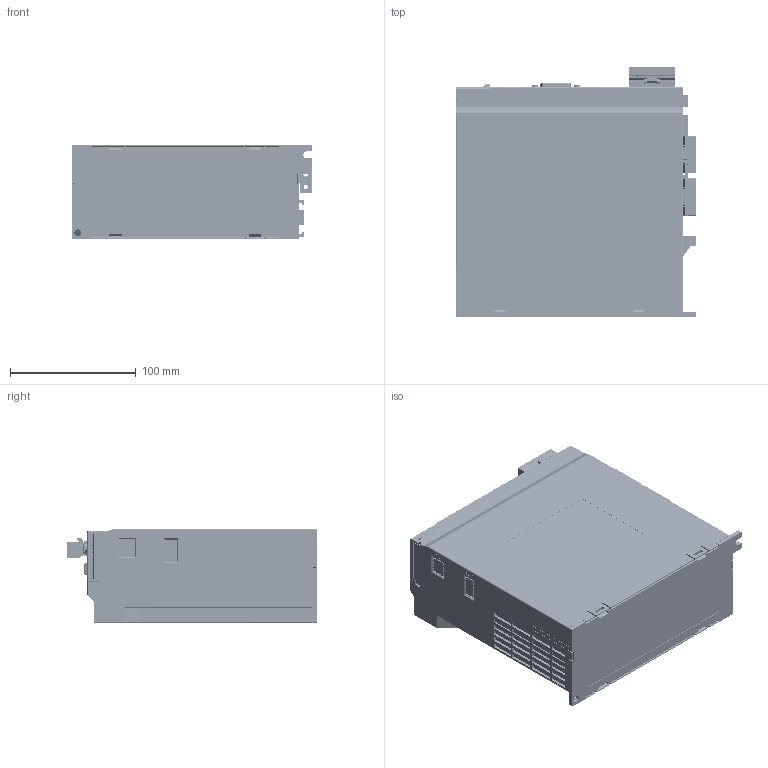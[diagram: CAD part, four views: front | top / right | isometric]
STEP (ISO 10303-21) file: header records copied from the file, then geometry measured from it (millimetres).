
FILE_DESCRIPTION((''),'2;1');
FILE_NAME('2ES3-10BNI_ASM','2026-03-03T11:39:13',('Admin'),(''),'CREO PARAMETRIC BY PTC INC, 2020074','CREO PARAMETRIC BY PTC INC, 2020074','');
FILE_SCHEMA(('CONFIG_CONTROL_DESIGN'));
Products named in the file (39): 2ES3-10BNI-DOWN; 2ES3-10BNI-PCB; DB26_; USER_LIBRARY-53460-0611_S_; 9EDGRC-7_5-05P-1Y-100Z_H; 9EDGRC-7_5-04P-1Y-100Z_H_; 9EDGRC-7_5-04P; RJ45-2_; STGIB10CH60TS-L_; D25SB80_; UCAF004-A_TYPE_C_10001; _X2_58515C014F53_X0_; TO-263_X2_684667B6_X0_-1462; TO-263_X2_684667B6_X0_-1463; TO-263_X2_684667B6_X0_-1464; TO-263_X2_684667B6_X0_-83_ASM; T020N065E_6__; D220E7L_5__; _X2_95215C42_X0_50UM-1488; _X2_95215C42_X0_50UM-1489; _X2_95215C42_X0_50UM-107_ASM; 12MIL_X2_94DD4E1D_X0_-115; 12MIL_X2_94DD4E1D_X0_-123; 5MIL_X2_94DD4E1D_X0_; 12MIL_X2_94DD4E1D_X0_-139; TO-263-JT020N065SED_1_ASM; TO-263-JT020N065SED_ASM; 2ES3-10BNI-PCBA_ASM; 5020Y1_1_1; 5020K1_ASM_1_1_ASM; FAN-5020_ASM; 2ES3-10BNI-DUCT; 2ES3-10BNI-UP; AS2E-PCB-K; COVER; 9EDGK-7_5-04P-1Y-1000A_Z_H_; PAD; 9EDGK-7_5-05P-1Y-1000A_Z_H_; 2ES3-10BNI_ASM
Assembly tree (41 placements, depth 6):
  2ES3-10BNI_ASM
    2ES3-10BNI-DOWN
    2ES3-10BNI-PCBA_ASM
      2ES3-10BNI-PCB
      DB26_
      USER_LIBRARY-53460-0611_S_  x2
      9EDGRC-7_5-05P-1Y-100Z_H
      9EDGRC-7_5-04P-1Y-100Z_H_
      9EDGRC-7_5-04P
      RJ45-2_
      STGIB10CH60TS-L_  x2
      D25SB80_
      UCAF004-A_TYPE_C_10001
      TO-263-JT020N065SED_ASM
        TO-263-JT020N065SED_1_ASM
          _X2_58515C014F53_X0_
          TO-263_X2_684667B6_X0_-83_ASM
            TO-263_X2_684667B6_X0_-1462
            TO-263_X2_684667B6_X0_-1463
            TO-263_X2_684667B6_X0_-1464
          T020N065E_6__
          D220E7L_5__
          _X2_95215C42_X0_50UM-107_ASM
            _X2_95215C42_X0_50UM-1488
            _X2_95215C42_X0_50UM-1489
          12MIL_X2_94DD4E1D_X0_-115
          12MIL_X2_94DD4E1D_X0_-123
          5MIL_X2_94DD4E1D_X0_
          12MIL_X2_94DD4E1D_X0_-139
    FAN-5020_ASM
      5020K1_ASM_1_1_ASM
        5020Y1_1_1
    2ES3-10BNI-DUCT
    2ES3-10BNI-UP
    AS2E-PCB-K
    COVER
    9EDGK-7_5-04P-1Y-1000A_Z_H_  x2
    PAD
    9EDGK-7_5-05P-1Y-1000A_Z_H_
Bounding box: 191.6 x 198.69 x 75 mm (x, y, z)
Volume: 2797106.7 mm3; surface area: 476221.2 mm2
Topology: 34 solids, 62 shells, 10289 faces, 28729 edges, 18995 vertices
Faces by surface type: plane 7561, cylinder 1709, extrusion 284, cone 263, torus 212, bspline 194, sphere 66
Entity records: 304878 total; most frequent: CARTESIAN_POINT 76339, ORIENTED_EDGE 49802, DIRECTION 43304, EDGE_CURVE 24913, VECTOR 19472, LINE 19216, VERTEX_POINT 16563, AXIS2_PLACEMENT_3D 11916
